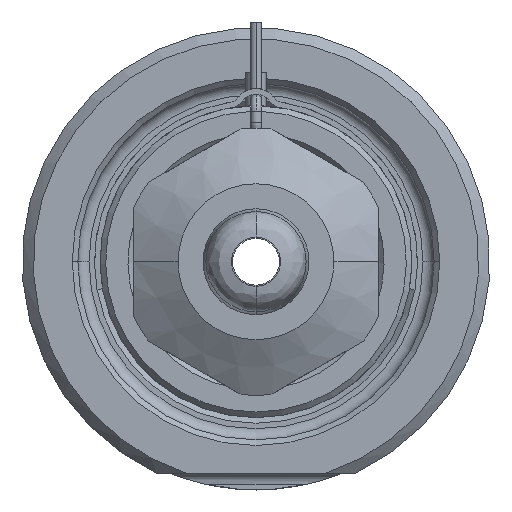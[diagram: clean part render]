
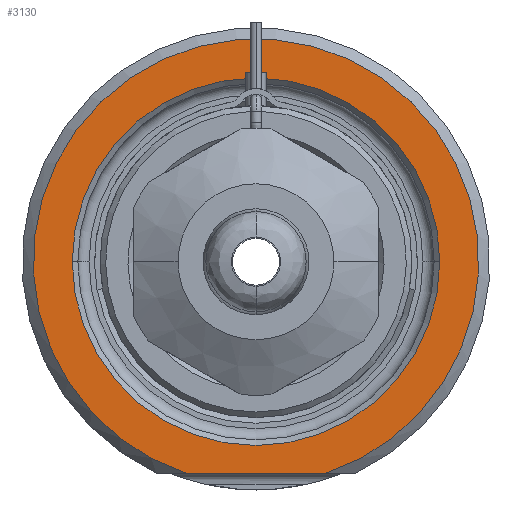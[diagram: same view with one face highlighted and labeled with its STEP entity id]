
A CAD part, front view. The second image highlights one B-rep face of the part: STEP entity #3130.
In plain terms, the highlighted planar face has unit normal (0, -1, 0).
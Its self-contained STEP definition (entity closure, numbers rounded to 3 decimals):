
#1=DIRECTION('',(1.,0.,0.));
#2=VECTOR('',#1,12.49);
#3=CARTESIAN_POINT('',(-6.245,0.,-19.));
#4=LINE('',#3,#2);
#5=CARTESIAN_POINT('',(0.,0.,0.));
#6=DIRECTION('',(0.,1.,0.));
#7=DIRECTION('',(-1.,0.,0.));
#8=AXIS2_PLACEMENT_3D('',#5,#6,#7);
#10=CARTESIAN_POINT('',(0.,0.,0.));
#11=DIRECTION('',(0.,1.,0.));
#12=DIRECTION('',(1.,0.,0.));
#13=AXIS2_PLACEMENT_3D('',#10,#11,#12);
#119=CARTESIAN_POINT('',(0.,0.,0.));
#120=DIRECTION('',(0.,-1.,0.));
#121=DIRECTION('',(0.312,0.,-0.95));
#122=AXIS2_PLACEMENT_3D('',#119,#120,#121);
#2605=CARTESIAN_POINT('',(-16.5,0.,0.));
#2606=CARTESIAN_POINT('',(16.5,0.,0.));
#2607=VERTEX_POINT('',#2605);
#2608=VERTEX_POINT('',#2606);
#2645=CARTESIAN_POINT('',(-6.245,0.,-19.));
#2646=CARTESIAN_POINT('',(6.245,0.,-19.));
#2647=VERTEX_POINT('',#2645);
#2648=VERTEX_POINT('',#2646);
#3113=CARTESIAN_POINT('',(0.,0.,0.));
#3114=DIRECTION('',(0.,-1.,0.));
#3115=DIRECTION('',(1.,0.,0.));
#3116=AXIS2_PLACEMENT_3D('',#3113,#3114,#3115);
#3117=PLANE('',#3116);
#3119=ORIENTED_EDGE('',*,*,#3118,.F.);
#3121=ORIENTED_EDGE('',*,*,#3120,.F.);
#3122=EDGE_LOOP('',(#3119,#3121));
#3123=FACE_OUTER_BOUND('',#3122,.F.);
#3125=ORIENTED_EDGE('',*,*,#3124,.F.);
#3127=ORIENTED_EDGE('',*,*,#3126,.F.);
#3128=EDGE_LOOP('',(#3125,#3127));
#3129=FACE_BOUND('',#3128,.F.);
#3130=ADVANCED_FACE('',(#3123,#3129),#3117,.T.);
#9=CIRCLE('',#8,16.5);
#14=CIRCLE('',#13,16.5);
#123=CIRCLE('',#122,20.);
#3118=EDGE_CURVE('',#2647,#2648,#4,.T.);
#3120=EDGE_CURVE('',#2648,#2647,#123,.T.);
#3124=EDGE_CURVE('',#2607,#2608,#9,.T.);
#3126=EDGE_CURVE('',#2608,#2607,#14,.T.);
